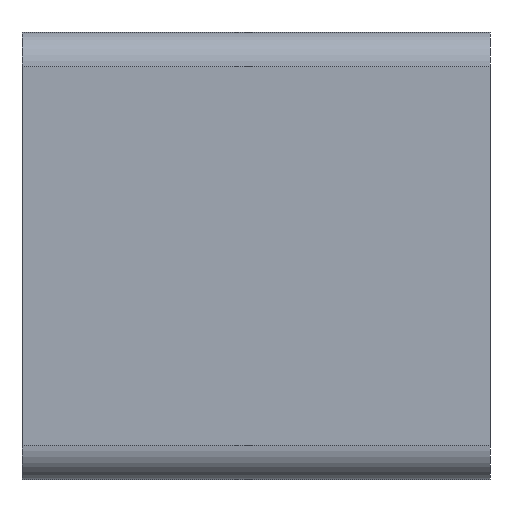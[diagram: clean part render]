
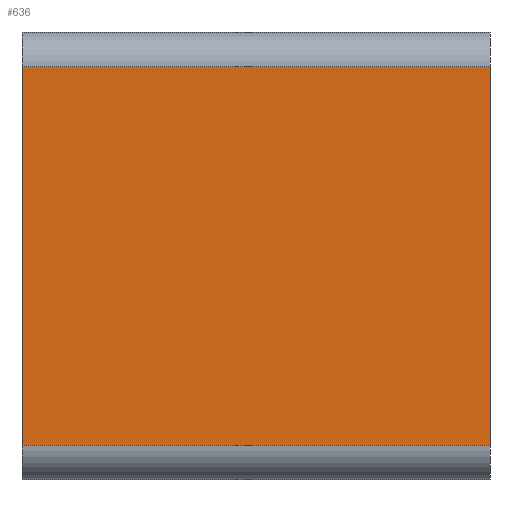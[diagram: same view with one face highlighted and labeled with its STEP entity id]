
A CAD part, front view. The second image highlights one B-rep face of the part: STEP entity #636.
In plain terms, the highlighted planar face has unit normal (0, -1, 0).
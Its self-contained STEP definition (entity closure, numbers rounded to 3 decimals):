
#32 = PLANE('',#33);
#33 = AXIS2_PLACEMENT_3D('',#34,#35,#36);
#34 = CARTESIAN_POINT('',(59.,18.,244.5));
#35 = DIRECTION('',(-1.,0.,0.));
#36 = DIRECTION('',(0.,1.,0.));
#118 = VERTEX_POINT('',#119);
#119 = CARTESIAN_POINT('',(59.,-2.3,236.2));
#138 = CYLINDRICAL_SURFACE('',#139,1.5);
#139 = AXIS2_PLACEMENT_3D('',#140,#141,#142);
#140 = CARTESIAN_POINT('',(58.922,-0.8,236.2));
#141 = DIRECTION('',(1.,0.,0.));
#142 = DIRECTION('',(0.,-1.,0.));
#150 = EDGE_CURVE('',#151,#118,#153,.T.);
#151 = VERTEX_POINT('',#152);
#152 = CARTESIAN_POINT('',(59.,-2.3,252.8));
#153 = SURFACE_CURVE('',#154,(#158,#165),.PCURVE_S1.);
#154 = LINE('',#155,#156);
#155 = CARTESIAN_POINT('',(59.,-2.3,244.5));
#156 = VECTOR('',#157,1.);
#157 = DIRECTION('',(0.,0.,-1.));
#158 = PCURVE('',#32,#159);
#159 = DEFINITIONAL_REPRESENTATION('',(#160),#164);
#160 = LINE('',#161,#162);
#161 = CARTESIAN_POINT('',(-20.3,0.));
#162 = VECTOR('',#163,1.);
#163 = DIRECTION('',(0.,1.));
#164 = ( GEOMETRIC_REPRESENTATION_CONTEXT(2) 
PARAMETRIC_REPRESENTATION_CONTEXT() REPRESENTATION_CONTEXT('2D SPACE',''
  ) );
#165 = PCURVE('',#166,#171);
#166 = PLANE('',#167);
#167 = AXIS2_PLACEMENT_3D('',#168,#169,#170);
#168 = CARTESIAN_POINT('',(59.,-2.3,234.7));
#169 = DIRECTION('',(0.,-1.,0.));
#170 = DIRECTION('',(0.,0.,1.));
#171 = DEFINITIONAL_REPRESENTATION('',(#172),#176);
#172 = LINE('',#173,#174);
#173 = CARTESIAN_POINT('',(9.8,0.));
#174 = VECTOR('',#175,1.);
#175 = DIRECTION('',(-1.,0.));
#176 = ( GEOMETRIC_REPRESENTATION_CONTEXT(2) 
PARAMETRIC_REPRESENTATION_CONTEXT() REPRESENTATION_CONTEXT('2D SPACE',''
  ) );
#199 = CYLINDRICAL_SURFACE('',#200,1.5);
#200 = AXIS2_PLACEMENT_3D('',#201,#202,#203);
#201 = CARTESIAN_POINT('',(58.922,-0.8,252.8));
#202 = DIRECTION('',(1.,0.,0.));
#203 = DIRECTION('',(0.,0.,1.));
#335 = PLANE('',#336);
#336 = AXIS2_PLACEMENT_3D('',#337,#338,#339);
#337 = CARTESIAN_POINT('',(79.5,18.,244.5));
#338 = DIRECTION('',(-1.,0.,0.));
#339 = DIRECTION('',(0.,1.,0.));
#378 = VERTEX_POINT('',#379);
#379 = CARTESIAN_POINT('',(79.5,-2.3,252.8));
#405 = EDGE_CURVE('',#406,#378,#408,.T.);
#406 = VERTEX_POINT('',#407);
#407 = CARTESIAN_POINT('',(79.5,-2.3,236.2));
#408 = SURFACE_CURVE('',#409,(#413,#420),.PCURVE_S1.);
#409 = LINE('',#410,#411);
#410 = CARTESIAN_POINT('',(79.5,-2.3,234.7));
#411 = VECTOR('',#412,1.);
#412 = DIRECTION('',(0.,0.,1.));
#413 = PCURVE('',#335,#414);
#414 = DEFINITIONAL_REPRESENTATION('',(#415),#419);
#415 = LINE('',#416,#417);
#416 = CARTESIAN_POINT('',(-20.3,9.8));
#417 = VECTOR('',#418,1.);
#418 = DIRECTION('',(0.,-1.));
#419 = ( GEOMETRIC_REPRESENTATION_CONTEXT(2) 
PARAMETRIC_REPRESENTATION_CONTEXT() REPRESENTATION_CONTEXT('2D SPACE',''
  ) );
#420 = PCURVE('',#166,#421);
#421 = DEFINITIONAL_REPRESENTATION('',(#422),#426);
#422 = LINE('',#423,#424);
#423 = CARTESIAN_POINT('',(0.,-20.5));
#424 = VECTOR('',#425,1.);
#425 = DIRECTION('',(1.,0.));
#426 = ( GEOMETRIC_REPRESENTATION_CONTEXT(2) 
PARAMETRIC_REPRESENTATION_CONTEXT() REPRESENTATION_CONTEXT('2D SPACE',''
  ) );
#613 = EDGE_CURVE('',#406,#118,#614,.T.);
#614 = SURFACE_CURVE('',#615,(#619,#626),.PCURVE_S1.);
#615 = LINE('',#616,#617);
#616 = CARTESIAN_POINT('',(59.,-2.3,236.2));
#617 = VECTOR('',#618,1.);
#618 = DIRECTION('',(-1.,0.,0.));
#619 = PCURVE('',#138,#620);
#620 = DEFINITIONAL_REPRESENTATION('',(#621),#625);
#621 = LINE('',#622,#623);
#622 = CARTESIAN_POINT('',(0.,0.078));
#623 = VECTOR('',#624,1.);
#624 = DIRECTION('',(0.,-1.));
#625 = ( GEOMETRIC_REPRESENTATION_CONTEXT(2) 
PARAMETRIC_REPRESENTATION_CONTEXT() REPRESENTATION_CONTEXT('2D SPACE',''
  ) );
#626 = PCURVE('',#166,#627);
#627 = DEFINITIONAL_REPRESENTATION('',(#628),#632);
#628 = LINE('',#629,#630);
#629 = CARTESIAN_POINT('',(1.5,0.));
#630 = VECTOR('',#631,1.);
#631 = DIRECTION('',(0.,1.));
#632 = ( GEOMETRIC_REPRESENTATION_CONTEXT(2) 
PARAMETRIC_REPRESENTATION_CONTEXT() REPRESENTATION_CONTEXT('2D SPACE',''
  ) );
#636 = ADVANCED_FACE('',(#637),#166,.T.);
#637 = FACE_BOUND('',#638,.T.);
#638 = EDGE_LOOP('',(#639,#640,#661,#662));
#639 = ORIENTED_EDGE('',*,*,#405,.T.);
#640 = ORIENTED_EDGE('',*,*,#641,.F.);
#641 = EDGE_CURVE('',#151,#378,#642,.T.);
#642 = SURFACE_CURVE('',#643,(#647,#654),.PCURVE_S1.);
#643 = LINE('',#644,#645);
#644 = CARTESIAN_POINT('',(58.922,-2.3,252.8));
#645 = VECTOR('',#646,1.);
#646 = DIRECTION('',(1.,0.,0.));
#647 = PCURVE('',#166,#648);
#648 = DEFINITIONAL_REPRESENTATION('',(#649),#653);
#649 = LINE('',#650,#651);
#650 = CARTESIAN_POINT('',(18.1,0.078));
#651 = VECTOR('',#652,1.);
#652 = DIRECTION('',(0.,-1.));
#653 = ( GEOMETRIC_REPRESENTATION_CONTEXT(2) 
PARAMETRIC_REPRESENTATION_CONTEXT() REPRESENTATION_CONTEXT('2D SPACE',''
  ) );
#654 = PCURVE('',#199,#655);
#655 = DEFINITIONAL_REPRESENTATION('',(#656),#660);
#656 = LINE('',#657,#658);
#657 = CARTESIAN_POINT('',(1.571,0.));
#658 = VECTOR('',#659,1.);
#659 = DIRECTION('',(0.,1.));
#660 = ( GEOMETRIC_REPRESENTATION_CONTEXT(2) 
PARAMETRIC_REPRESENTATION_CONTEXT() REPRESENTATION_CONTEXT('2D SPACE',''
  ) );
#661 = ORIENTED_EDGE('',*,*,#150,.T.);
#662 = ORIENTED_EDGE('',*,*,#613,.F.);
